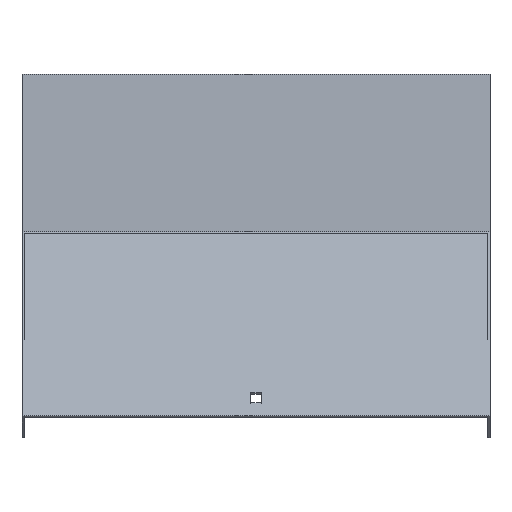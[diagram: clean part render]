
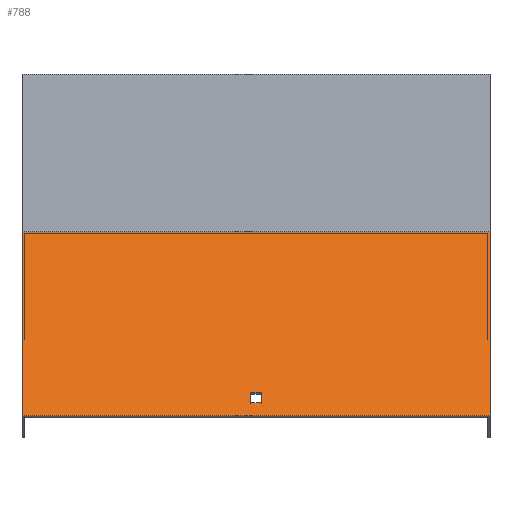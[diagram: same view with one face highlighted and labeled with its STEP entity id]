
A CAD part, top view. The second image highlights one B-rep face of the part: STEP entity #788.
In plain terms, the highlighted planar face has unit normal (0, 0.707, 0.707).
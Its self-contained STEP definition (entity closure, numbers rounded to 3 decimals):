
#2 = EDGE_LOOP ( 'NONE', ( #463, #814, #35, #642 ) ) ;
#13 = CARTESIAN_POINT ( 'NONE',  ( -151.5, -201.645, 535.1 ) ) ;
#25 = CARTESIAN_POINT ( 'NONE',  ( 151.5, -82.16, 415.614 ) ) ;
#35 = ORIENTED_EDGE ( 'NONE', *, *, #794, .F. ) ;
#52 = DIRECTION ( 'NONE',  ( 0., 0.707, -0.707 ) ) ;
#61 = CARTESIAN_POINT ( 'NONE',  ( -3.25, -186.796, 520.25 ) ) ;
#80 = VECTOR ( 'NONE', #530, 1000. ) ;
#100 = CARTESIAN_POINT ( 'NONE',  ( 151.5, -201.645, 535.1 ) ) ;
#104 = VECTOR ( 'NONE', #765, 1000. ) ;
#118 = FACE_OUTER_BOUND ( 'NONE', #2, .T. ) ;
#121 = EDGE_CURVE ( 'NONE', #216, #440, #529, .T. ) ;
#122 = ORIENTED_EDGE ( 'NONE', *, *, #553, .T. ) ;
#123 = CARTESIAN_POINT ( 'NONE',  ( 151.5, -84.973, 418.427 ) ) ;
#131 = DIRECTION ( 'NONE',  ( -1., 0., 0. ) ) ;
#141 = VERTEX_POINT ( 'NONE', #369 ) ;
#142 = LINE ( 'NONE', #266, #337 ) ;
#198 = EDGE_CURVE ( 'NONE', #224, #462, #207, .T. ) ;
#200 = VERTEX_POINT ( 'NONE', #231 ) ;
#202 = LINE ( 'NONE', #477, #80 ) ;
#207 = LINE ( 'NONE', #100, #515 ) ;
#212 = CARTESIAN_POINT ( 'NONE',  ( 151.5, -201.645, 535.1 ) ) ;
#216 = VERTEX_POINT ( 'NONE', #758 ) ;
#224 = VERTEX_POINT ( 'NONE', #212 ) ;
#231 = CARTESIAN_POINT ( 'NONE',  ( -3.25, -193.16, 526.614 ) ) ;
#260 = CARTESIAN_POINT ( 'NONE',  ( 151.5, -193.16, 526.614 ) ) ;
#266 = CARTESIAN_POINT ( 'NONE',  ( 151.5, -186.796, 520.25 ) ) ;
#274 = ORIENTED_EDGE ( 'NONE', *, *, #121, .T. ) ;
#280 = EDGE_CURVE ( 'NONE', #200, #833, #669, .T. ) ;
#310 = LINE ( 'NONE', #123, #312 ) ;
#312 = VECTOR ( 'NONE', #381, 1000. ) ;
#337 = VECTOR ( 'NONE', #802, 1000. ) ;
#353 = AXIS2_PLACEMENT_3D ( 'NONE', #376, #645, #52 ) ;
#369 = CARTESIAN_POINT ( 'NONE',  ( 151.5, -82.16, 415.614 ) ) ;
#376 = CARTESIAN_POINT ( 'NONE',  ( 151.5, -84.973, 418.427 ) ) ;
#381 = DIRECTION ( 'NONE',  ( 0., -0.707, 0.707 ) ) ;
#382 = CARTESIAN_POINT ( 'NONE',  ( 3.25, -193.16, 526.614 ) ) ;
#418 = DIRECTION ( 'NONE',  ( -1., 0., 0. ) ) ;
#440 = VERTEX_POINT ( 'NONE', #382 ) ;
#461 = LINE ( 'NONE', #260, #809 ) ;
#462 = VERTEX_POINT ( 'NONE', #13 ) ;
#463 = ORIENTED_EDGE ( 'NONE', *, *, #549, .T. ) ;
#471 = VECTOR ( 'NONE', #418, 1000. ) ;
#477 = CARTESIAN_POINT ( 'NONE',  ( -151.5, -84.973, 418.427 ) ) ;
#481 = CARTESIAN_POINT ( 'NONE',  ( -151.5, -82.16, 415.614 ) ) ;
#483 = VERTEX_POINT ( 'NONE', #481 ) ;
#505 = CARTESIAN_POINT ( 'NONE',  ( -3.25, -84.973, 418.427 ) ) ;
#515 = VECTOR ( 'NONE', #697, 1000. ) ;
#529 = LINE ( 'NONE', #792, #839 ) ;
#530 = DIRECTION ( 'NONE',  ( 0., -0.707, 0.707 ) ) ;
#535 = DIRECTION ( 'NONE',  ( 0., -0.707, 0.707 ) ) ;
#549 = EDGE_CURVE ( 'NONE', #483, #462, #202, .T. ) ;
#553 = EDGE_CURVE ( 'NONE', #833, #216, #142, .T. ) ;
#594 = EDGE_LOOP ( 'NONE', ( #122, #274, #848, #685 ) ) ;
#620 = EDGE_CURVE ( 'NONE', #141, #483, #754, .T. ) ;
#642 = ORIENTED_EDGE ( 'NONE', *, *, #620, .T. ) ;
#645 = DIRECTION ( 'NONE',  ( 0., -0.707, -0.707 ) ) ;
#669 = LINE ( 'NONE', #505, #104 ) ;
#685 = ORIENTED_EDGE ( 'NONE', *, *, #280, .T. ) ;
#697 = DIRECTION ( 'NONE',  ( -1., 0., 0. ) ) ;
#716 = FACE_BOUND ( 'NONE', #594, .T. ) ;
#719 = PLANE ( 'NONE',  #353 ) ;
#754 = LINE ( 'NONE', #25, #471 ) ;
#758 = CARTESIAN_POINT ( 'NONE',  ( 3.25, -186.796, 520.25 ) ) ;
#765 = DIRECTION ( 'NONE',  ( 0., 0.707, -0.707 ) ) ;
#788 = ADVANCED_FACE ( 'NONE', ( #716, #118 ), #719, .F. ) ;
#792 = CARTESIAN_POINT ( 'NONE',  ( 3.25, -84.973, 418.427 ) ) ;
#794 = EDGE_CURVE ( 'NONE', #141, #224, #310, .T. ) ;
#800 = EDGE_CURVE ( 'NONE', #440, #200, #461, .T. ) ;
#802 = DIRECTION ( 'NONE',  ( 1., 0., 0. ) ) ;
#809 = VECTOR ( 'NONE', #131, 1000. ) ;
#814 = ORIENTED_EDGE ( 'NONE', *, *, #198, .F. ) ;
#833 = VERTEX_POINT ( 'NONE', #61 ) ;
#839 = VECTOR ( 'NONE', #535, 1000. ) ;
#848 = ORIENTED_EDGE ( 'NONE', *, *, #800, .T. ) ;
